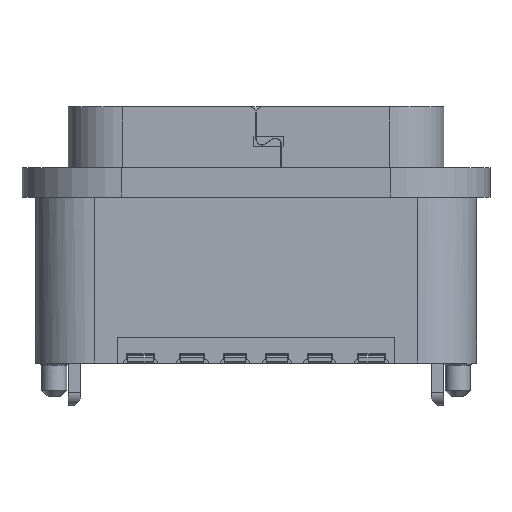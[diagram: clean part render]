
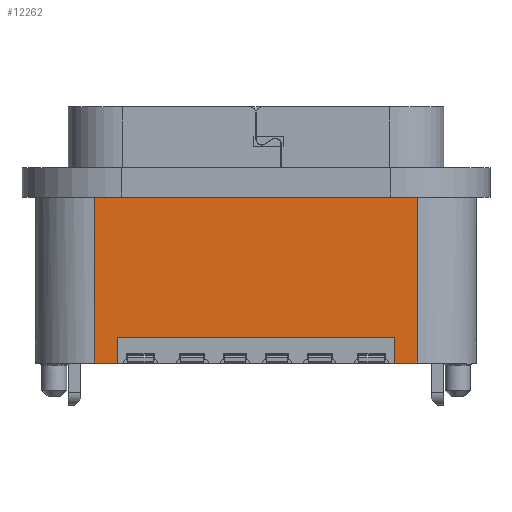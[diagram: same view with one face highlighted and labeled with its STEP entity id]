
A CAD part, top view. The second image highlights one B-rep face of the part: STEP entity #12262.
In plain terms, the highlighted planar face has unit normal (0, 0, 1).
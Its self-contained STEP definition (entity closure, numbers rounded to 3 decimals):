
#613=DIRECTION('',(-1.,0.,0.));
#614=VECTOR('',#613,7.7);
#615=CARTESIAN_POINT('',(3.85,2.3,2.38));
#616=LINE('',#615,#614);
#656=DIRECTION('',(0.,-1.,0.));
#657=VECTOR('',#656,3.95);
#658=CARTESIAN_POINT('',(-3.85,2.3,2.38));
#659=LINE('',#658,#657);
#1275=DIRECTION('',(0.,1.,0.));
#1276=VECTOR('',#1275,0.6);
#1277=CARTESIAN_POINT('',(-3.3,-1.65,2.38));
#1278=LINE('',#1277,#1276);
#1287=DIRECTION('',(1.,0.,0.));
#1288=VECTOR('',#1287,6.6);
#1289=CARTESIAN_POINT('',(-3.3,-1.05,2.38));
#1290=LINE('',#1289,#1288);
#1291=DIRECTION('',(1.,0.,0.));
#1292=VECTOR('',#1291,0.55);
#1293=CARTESIAN_POINT('',(-3.85,-1.65,2.38));
#1294=LINE('',#1293,#1292);
#1295=DIRECTION('',(1.,0.,0.));
#1296=VECTOR('',#1295,0.55);
#1297=CARTESIAN_POINT('',(3.3,-1.65,2.38));
#1298=LINE('',#1297,#1296);
#1299=DIRECTION('',(0.,-1.,0.));
#1300=VECTOR('',#1299,0.6);
#1301=CARTESIAN_POINT('',(3.3,-1.05,2.38));
#1302=LINE('',#1301,#1300);
#1333=DIRECTION('',(0.,1.,0.));
#1334=VECTOR('',#1333,3.95);
#1335=CARTESIAN_POINT('',(3.85,-1.65,2.38));
#1336=LINE('',#1335,#1334);
#8419=CARTESIAN_POINT('',(-3.3,-1.65,2.38));
#8420=VERTEX_POINT('',#8419);
#8421=CARTESIAN_POINT('',(-3.85,-1.65,2.38));
#8422=VERTEX_POINT('',#8421);
#8441=CARTESIAN_POINT('',(3.85,-1.65,2.38));
#8443=VERTEX_POINT('',#8441);
#8445=CARTESIAN_POINT('',(3.3,-1.65,2.38));
#8446=VERTEX_POINT('',#8445);
#8447=CARTESIAN_POINT('',(3.3,-1.05,2.38));
#8448=VERTEX_POINT('',#8447);
#8449=CARTESIAN_POINT('',(-3.3,-1.05,2.38));
#8450=VERTEX_POINT('',#8449);
#8451=CARTESIAN_POINT('',(-3.85,2.3,2.38));
#8452=VERTEX_POINT('',#8451);
#8453=CARTESIAN_POINT('',(3.85,2.3,2.38));
#8454=VERTEX_POINT('',#8453);
#12244=CARTESIAN_POINT('',(0.,0.325,2.38));
#12245=DIRECTION('',(0.,0.,1.));
#12246=DIRECTION('',(1.,0.,0.));
#12247=AXIS2_PLACEMENT_3D('',#12244,#12245,#12246);
#12248=PLANE('',#12247);
#12250=ORIENTED_EDGE('',*,*,#12249,.F.);
#12251=ORIENTED_EDGE('',*,*,#12236,.F.);
#12252=ORIENTED_EDGE('',*,*,#11400,.F.);
#12253=ORIENTED_EDGE('',*,*,#11354,.F.);
#12254=ORIENTED_EDGE('',*,*,#11301,.F.);
#12256=ORIENTED_EDGE('',*,*,#12255,.F.);
#12257=ORIENTED_EDGE('',*,*,#11376,.F.);
#12259=ORIENTED_EDGE('',*,*,#12258,.F.);
#12260=EDGE_LOOP('',(#12250,#12251,#12252,#12253,#12254,#12256,#12257,#12259));
#12261=FACE_OUTER_BOUND('',#12260,.F.);
#12262=ADVANCED_FACE('',(#12261),#12248,.T.);
#11301=EDGE_CURVE('',#8454,#8452,#616,.T.);
#11354=EDGE_CURVE('',#8452,#8422,#659,.T.);
#11376=EDGE_CURVE('',#8446,#8443,#1298,.T.);
#11400=EDGE_CURVE('',#8422,#8420,#1294,.T.);
#12236=EDGE_CURVE('',#8420,#8450,#1278,.T.);
#12249=EDGE_CURVE('',#8450,#8448,#1290,.T.);
#12255=EDGE_CURVE('',#8443,#8454,#1336,.T.);
#12258=EDGE_CURVE('',#8448,#8446,#1302,.T.);
